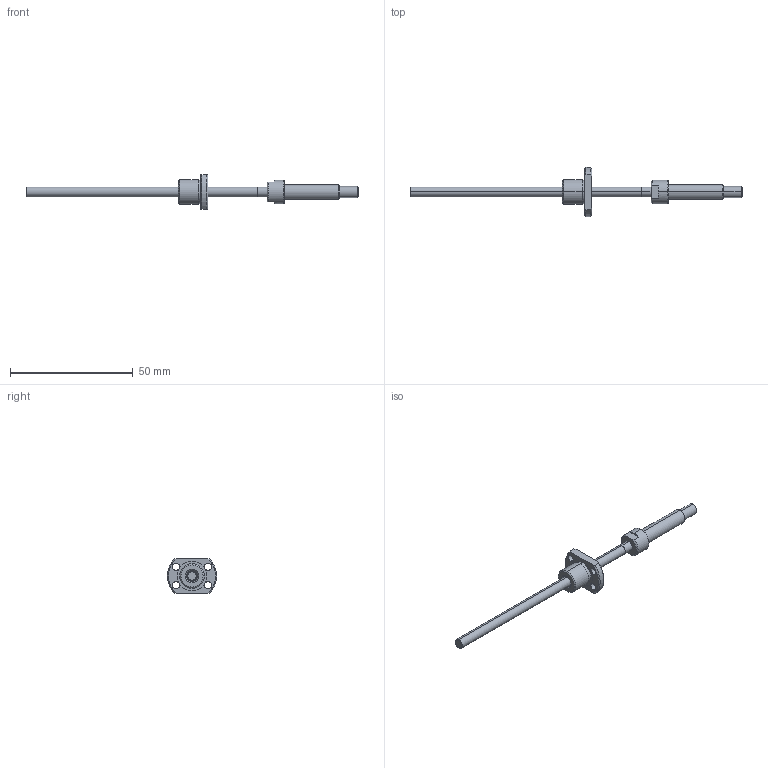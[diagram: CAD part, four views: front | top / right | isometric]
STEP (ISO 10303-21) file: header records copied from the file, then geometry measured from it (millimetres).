
FILE_DESCRIPTION (( 'STEP AP214' ), '1' );
FILE_NAME ('BS0401K-3D.STEP', '2014-03-05T15:08:22', ( '' ), ( '' ), 'SwSTEP 2.0', 'SolidWorks 2012', '' );
FILE_SCHEMA (( 'AUTOMOTIVE_DESIGN' ));
Length unit declared in the file: millimetre
Products named in the file (3): BS0401K-3D; BS0401KŽ²; BS0401Kナット
Assembly tree (2 placements, depth 2):
  BS0401K-3D
    BS0401KŽ²
    BS0401Kナット
Bounding box: 135 x 19.93 x 14 mm (x, y, z)
Volume: 4467.8 mm3; surface area: 4290.1 mm2
Topology: 3 solids, 3 shells, 69 faces, 154 edges, 98 vertices
Faces by surface type: cylinder 30, cone 20, plane 19
Entity records: 2091 total; most frequent: DIRECTION 374, CARTESIAN_POINT 362, ORIENTED_EDGE 308, AXIS2_PLACEMENT_3D 158, EDGE_CURVE 154, VERTEX_POINT 98, EDGE_LOOP 86, CIRCLE 84
